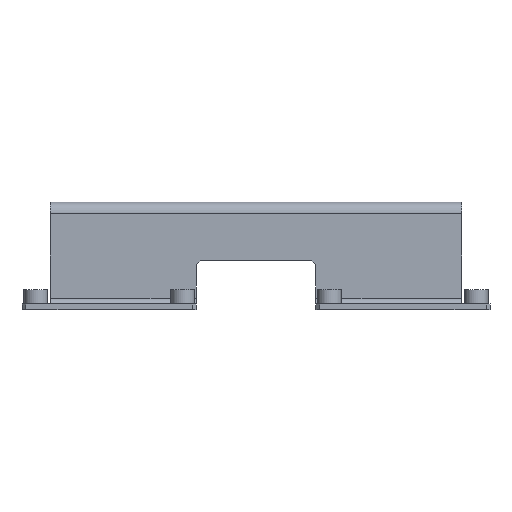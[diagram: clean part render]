
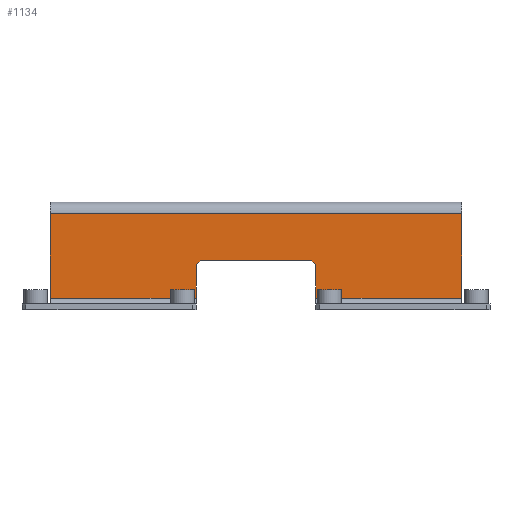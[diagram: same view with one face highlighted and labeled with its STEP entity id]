
A CAD part, front view. The second image highlights one B-rep face of the part: STEP entity #1134.
In plain terms, the highlighted planar face has unit normal (0, -1, 0).
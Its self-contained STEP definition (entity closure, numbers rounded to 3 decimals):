
#15 = DIRECTION ( 'NONE',  ( -1., 0., 0. ) ) ;
#26 = VERTEX_POINT ( 'NONE', #3720 ) ;
#97 = ORIENTED_EDGE ( 'NONE', *, *, #4370, .T. ) ;
#101 = DIRECTION ( 'NONE',  ( 0.707, 0., 0.707 ) ) ;
#181 = EDGE_LOOP ( 'NONE', ( #1038, #3859, #687, #1335, #3776, #3072, #97, #909, #1630, #5116 ) ) ;
#249 = EDGE_CURVE ( 'NONE', #4818, #1368, #3100, .T. ) ;
#317 = CARTESIAN_POINT ( 'NONE',  ( 28.5, 0., -27. ) ) ;
#625 = VERTEX_POINT ( 'NONE', #4919 ) ;
#650 = VERTEX_POINT ( 'NONE', #2406 ) ;
#670 = VECTOR ( 'NONE', #101, 1000. ) ;
#676 = VECTOR ( 'NONE', #1905, 1000. ) ;
#687 = ORIENTED_EDGE ( 'NONE', *, *, #5295, .F. ) ;
#702 = VECTOR ( 'NONE', #3239, 1000. ) ;
#739 = CARTESIAN_POINT ( 'NONE',  ( -105., 0., -46. ) ) ;
#772 = LINE ( 'NONE', #1155, #702 ) ;
#785 = VERTEX_POINT ( 'NONE', #1758 ) ;
#795 = CARTESIAN_POINT ( 'NONE',  ( -30.5, 0., -29. ) ) ;
#878 = DIRECTION ( 'NONE',  ( 0.707, 0., -0.707 ) ) ;
#909 = ORIENTED_EDGE ( 'NONE', *, *, #3257, .T. ) ;
#1014 = EDGE_CURVE ( 'NONE', #625, #2357, #772, .T. ) ;
#1024 = EDGE_CURVE ( 'NONE', #625, #650, #2452, .T. ) ;
#1038 = ORIENTED_EDGE ( 'NONE', *, *, #1024, .F. ) ;
#1057 = LINE ( 'NONE', #4329, #2123 ) ;
#1072 = EDGE_CURVE ( 'NONE', #1760, #26, #2588, .T. ) ;
#1134 = ADVANCED_FACE ( 'NONE', ( #2503 ), #2560, .F. ) ;
#1155 = CARTESIAN_POINT ( 'NONE',  ( 105., 0., 0. ) ) ;
#1335 = ORIENTED_EDGE ( 'NONE', *, *, #2450, .T. ) ;
#1368 = VERTEX_POINT ( 'NONE', #795 ) ;
#1404 = VECTOR ( 'NONE', #2829, 1000. ) ;
#1630 = ORIENTED_EDGE ( 'NONE', *, *, #1072, .T. ) ;
#1632 = LINE ( 'NONE', #2169, #2867 ) ;
#1668 = VECTOR ( 'NONE', #4313, 1000. ) ;
#1700 = EDGE_CURVE ( 'NONE', #26, #650, #5171, .T. ) ;
#1758 = CARTESIAN_POINT ( 'NONE',  ( -28.5, 0., -27. ) ) ;
#1760 = VERTEX_POINT ( 'NONE', #317 ) ;
#1769 = LINE ( 'NONE', #3861, #670 ) ;
#1905 = DIRECTION ( 'NONE',  ( 0., 0., 1. ) ) ;
#1933 = EDGE_CURVE ( 'NONE', #4818, #5336, #1632, .T. ) ;
#2123 = VECTOR ( 'NONE', #5217, 1000. ) ;
#2169 = CARTESIAN_POINT ( 'NONE',  ( 119.5, 0., -46. ) ) ;
#2348 = CARTESIAN_POINT ( 'NONE',  ( -30.5, 0., -46. ) ) ;
#2357 = VERTEX_POINT ( 'NONE', #2536 ) ;
#2364 = VECTOR ( 'NONE', #2605, 1000. ) ;
#2406 = CARTESIAN_POINT ( 'NONE',  ( 30.5, 0., -46. ) ) ;
#2450 = EDGE_CURVE ( 'NONE', #3772, #5336, #4365, .T. ) ;
#2452 = LINE ( 'NONE', #2802, #1404 ) ;
#2503 = FACE_OUTER_BOUND ( 'NONE', #181, .T. ) ;
#2536 = CARTESIAN_POINT ( 'NONE',  ( 105., 0., -3. ) ) ;
#2560 = PLANE ( 'NONE',  #2957 ) ;
#2588 = LINE ( 'NONE', #4256, #3042 ) ;
#2605 = DIRECTION ( 'NONE',  ( 0., 0., -1. ) ) ;
#2802 = CARTESIAN_POINT ( 'NONE',  ( 119.5, 0., -46. ) ) ;
#2829 = DIRECTION ( 'NONE',  ( -1., 0., 0. ) ) ;
#2867 = VECTOR ( 'NONE', #15, 1000. ) ;
#2957 = AXIS2_PLACEMENT_3D ( 'NONE', #3401, #3024, #4663 ) ;
#3024 = DIRECTION ( 'NONE',  ( 0., 1., 0. ) ) ;
#3042 = VECTOR ( 'NONE', #878, 1000. ) ;
#3071 = CARTESIAN_POINT ( 'NONE',  ( -30.5, 0., 0. ) ) ;
#3072 = ORIENTED_EDGE ( 'NONE', *, *, #249, .T. ) ;
#3074 = CARTESIAN_POINT ( 'NONE',  ( -105., 0., 0. ) ) ;
#3100 = LINE ( 'NONE', #3071, #676 ) ;
#3124 = CARTESIAN_POINT ( 'NONE',  ( 30.5, 0., 0. ) ) ;
#3218 = CARTESIAN_POINT ( 'NONE',  ( -105., 0., -3. ) ) ;
#3239 = DIRECTION ( 'NONE',  ( 0., 0., 1. ) ) ;
#3257 = EDGE_CURVE ( 'NONE', #785, #1760, #1057, .T. ) ;
#3401 = CARTESIAN_POINT ( 'NONE',  ( 119.5, 0., 0. ) ) ;
#3720 = CARTESIAN_POINT ( 'NONE',  ( 30.5, 0., -29. ) ) ;
#3772 = VERTEX_POINT ( 'NONE', #3218 ) ;
#3776 = ORIENTED_EDGE ( 'NONE', *, *, #1933, .F. ) ;
#3848 = VECTOR ( 'NONE', #4060, 1000. ) ;
#3859 = ORIENTED_EDGE ( 'NONE', *, *, #1014, .T. ) ;
#3861 = CARTESIAN_POINT ( 'NONE',  ( 59., 0., 60.5 ) ) ;
#4060 = DIRECTION ( 'NONE',  ( 1., 0., 0. ) ) ;
#4256 = CARTESIAN_POINT ( 'NONE',  ( 60.5, 0., -59. ) ) ;
#4313 = DIRECTION ( 'NONE',  ( 0., 0., -1. ) ) ;
#4329 = CARTESIAN_POINT ( 'NONE',  ( 119.5, 0., -27. ) ) ;
#4365 = LINE ( 'NONE', #3074, #1668 ) ;
#4370 = EDGE_CURVE ( 'NONE', #1368, #785, #1769, .T. ) ;
#4529 = CARTESIAN_POINT ( 'NONE',  ( 119.5, 0., -3. ) ) ;
#4663 = DIRECTION ( 'NONE',  ( 0., 0., 1. ) ) ;
#4818 = VERTEX_POINT ( 'NONE', #2348 ) ;
#4919 = CARTESIAN_POINT ( 'NONE',  ( 105., 0., -46. ) ) ;
#5116 = ORIENTED_EDGE ( 'NONE', *, *, #1700, .T. ) ;
#5171 = LINE ( 'NONE', #3124, #2364 ) ;
#5217 = DIRECTION ( 'NONE',  ( 1., 0., 0. ) ) ;
#5231 = LINE ( 'NONE', #4529, #3848 ) ;
#5295 = EDGE_CURVE ( 'NONE', #3772, #2357, #5231, .T. ) ;
#5336 = VERTEX_POINT ( 'NONE', #739 ) ;
